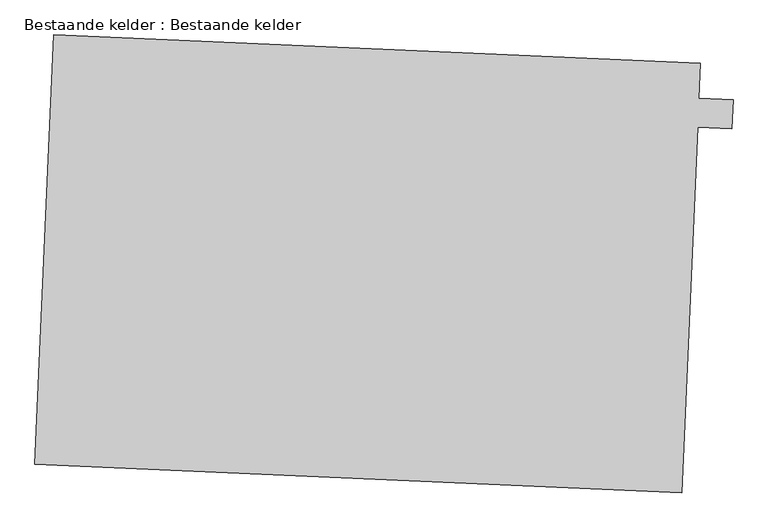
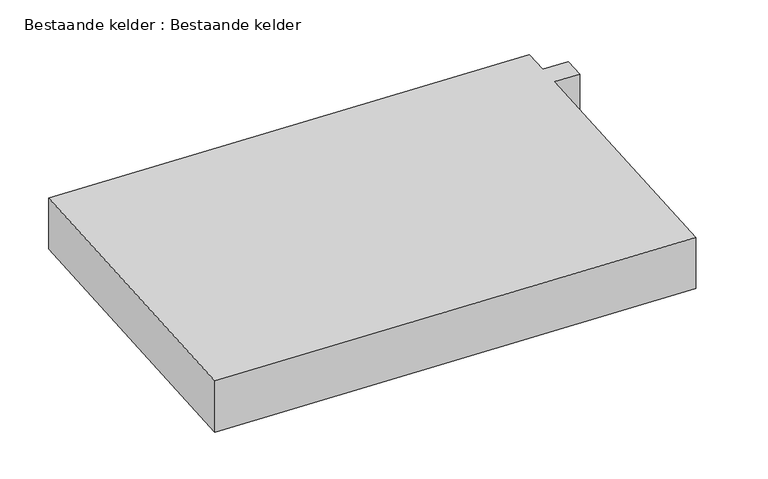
"""IFC4 building model written with IfcOpenShell, lengths in millimetres: proxy geometry, Bestaande kelder : Bestaande kelder."""

from ifc_helpers import new_model, si_unit, frame, origin, place, context, project, spatial, polyline, outline, extrude, source, transform, mapped, element, save


def bestaande_kelder_bestaande_kelder_df24a7f6(model_context):
    return source(origin(), model_context, "Body", "SweptSolid", [
        extrude(outline(polyline([(52480.0713302, 19823.1554245), (52401.4608315, 18024.8728023), (54169.7720767, 17947.5724785), (54104.2633277, 16449.0036267), (52335.9520825, 16526.3039504), (51510.5418457, -2355.6635832), (18122.4278259, -896.1286565), (19091.9573105, 21282.6903513), (52480.0713302, 19823.1554245)])), frame((0.0, 0.0, -4740.0), z_axis=(0.0, 0.0, 1.0), x_axis=(1.0, 0.0, 0.0)), (0.0, 0.0, 1.0), 3850.0),
    ])


if __name__ == "__main__":
    model = new_model("IFC4")
    model_context = context("Model", 3, world=origin())
    ifc_project = project(units=[si_unit("LENGTHUNIT", "METRE", prefix="MILLI")], contexts=[model_context])
    site = spatial("IfcSite", under=ifc_project)
    building = spatial("IfcBuilding", under=site)
    placement = place(None, origin())
    bestaande_kelder_bestaande_kelder_shape = bestaande_kelder_bestaande_kelder_df24a7f6(model_context)
    element("IfcBuildingElementProxy", 1, Name="Bestaande kelder : Bestaande kelder", ObjectType="Bestaande kelder : Bestaande kelder", at=placement, inside=building, context=model_context, shape_type="MappedRepresentation", body=[
        mapped(bestaande_kelder_bestaande_kelder_shape, transform((0.0, 0.0, 0.0), x_axis=(1.0, 0.0, 0.0), y_axis=(0.0, 1.0, 0.0), z_axis=(0.0, 0.0, 1.0))),
    ])
    save(model, "model.ifc")
